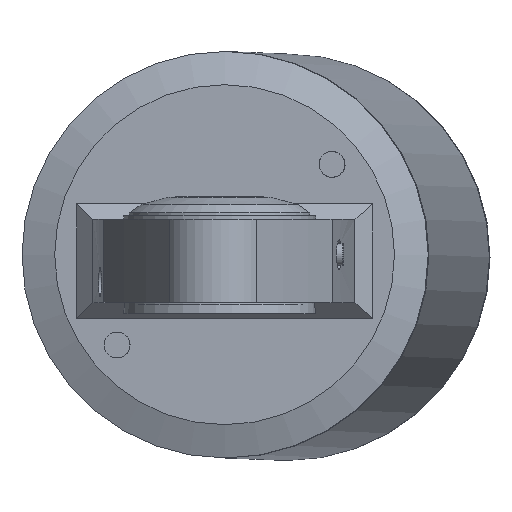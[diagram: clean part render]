
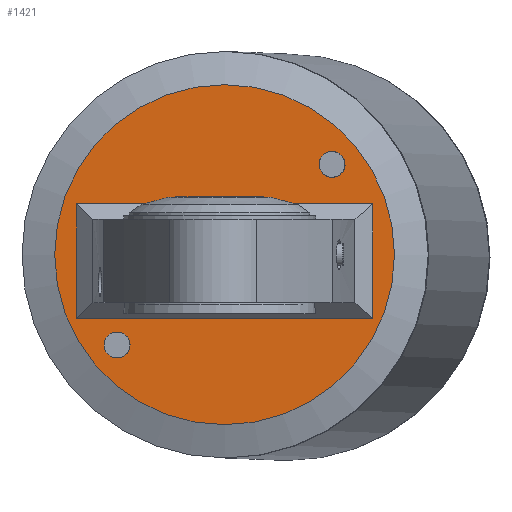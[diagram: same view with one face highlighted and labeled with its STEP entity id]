
A CAD part, top view. The second image highlights one B-rep face of the part: STEP entity #1421.
In plain terms, the highlighted planar face has unit normal (-0.042, 0, 0.999).
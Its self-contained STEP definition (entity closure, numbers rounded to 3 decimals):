
#4 = DIRECTION ( 'NONE',  ( 0., -1., 0. ) ) ;
#15 = AXIS2_PLACEMENT_3D ( 'NONE', #2724, #2955, #2275 ) ;
#27 = DIRECTION ( 'NONE',  ( 0.042, 0., -0.999 ) ) ;
#103 = VERTEX_POINT ( 'NONE', #654 ) ;
#120 = ORIENTED_EDGE ( 'NONE', *, *, #1766, .F. ) ;
#181 = ORIENTED_EDGE ( 'NONE', *, *, #3005, .T. ) ;
#198 = EDGE_CURVE ( 'NONE', #763, #567, #963, .T. ) ;
#258 = FACE_BOUND ( 'NONE', #407, .T. ) ;
#276 = ORIENTED_EDGE ( 'NONE', *, *, #1210, .F. ) ;
#365 = DIRECTION ( 'NONE',  ( -0.042, 0., 0.999 ) ) ;
#386 = EDGE_LOOP ( 'NONE', ( #2539, #181, #441, #2052 ) ) ;
#407 = EDGE_LOOP ( 'NONE', ( #276 ) ) ;
#441 = ORIENTED_EDGE ( 'NONE', *, *, #2465, .T. ) ;
#456 = VERTEX_POINT ( 'NONE', #2843 ) ;
#482 = CARTESIAN_POINT ( 'NONE',  ( 322.705, 339.5, 2160.357 ) ) ;
#515 = AXIS2_PLACEMENT_3D ( 'NONE', #482, #27, #4 ) ;
#567 = VERTEX_POINT ( 'NONE', #1750 ) ;
#654 = CARTESIAN_POINT ( 'NONE',  ( 402.798, 305., 2163.708 ) ) ;
#716 = VECTOR ( 'NONE', #2358, 1000. ) ;
#763 = VERTEX_POINT ( 'NONE', #2674 ) ;
#843 = ORIENTED_EDGE ( 'NONE', *, *, #1017, .F. ) ;
#947 = DIRECTION ( 'NONE',  ( 0.999, 0., 0.042 ) ) ;
#963 = LINE ( 'NONE', #1488, #716 ) ;
#998 = VERTEX_POINT ( 'NONE', #1505 ) ;
#1017 = EDGE_CURVE ( 'NONE', #1945, #1945, #2342, .T. ) ;
#1186 = CIRCLE ( 'NONE', #2398, 7. ) ;
#1203 = CARTESIAN_POINT ( 'NONE',  ( 380.873, 381.352, 2162.79 ) ) ;
#1210 = EDGE_CURVE ( 'NONE', #998, #998, #2839, .T. ) ;
#1289 = DIRECTION ( 'NONE',  ( 0., -1., 0. ) ) ;
#1328 = EDGE_CURVE ( 'NONE', #103, #763, #1429, .T. ) ;
#1346 = VECTOR ( 'NONE', #2113, 1000. ) ;
#1397 = AXIS2_PLACEMENT_3D ( 'NONE', #2928, #1770, #1289 ) ;
#1421 = ADVANCED_FACE ( 'NONE', ( #2371, #258, #1507, #2195 ), #1967, .F. ) ;
#1429 = LINE ( 'NONE', #1858, #1346 ) ;
#1440 = CARTESIAN_POINT ( 'NONE',  ( 322.705, 247.5, 2160.357 ) ) ;
#1488 = CARTESIAN_POINT ( 'NONE',  ( 242.611, 339.5, 2157.006 ) ) ;
#1505 = CARTESIAN_POINT ( 'NONE',  ( 264.536, 283.648, 2157.923 ) ) ;
#1507 = FACE_BOUND ( 'NONE', #386, .T. ) ;
#1724 = LINE ( 'NONE', #2647, #1924 ) ;
#1739 = DIRECTION ( 'NONE',  ( 0., -1., 0. ) ) ;
#1743 = VECTOR ( 'NONE', #947, 1000. ) ;
#1750 = CARTESIAN_POINT ( 'NONE',  ( 242.611, 367., 2157.006 ) ) ;
#1766 = EDGE_CURVE ( 'NONE', #1885, #1885, #1186, .T. ) ;
#1770 = DIRECTION ( 'NONE',  ( 0.042, 0., -0.999 ) ) ;
#1847 = EDGE_LOOP ( 'NONE', ( #120 ) ) ;
#1858 = CARTESIAN_POINT ( 'NONE',  ( 414.624, 305., 2164.202 ) ) ;
#1885 = VERTEX_POINT ( 'NONE', #1203 ) ;
#1918 = EDGE_LOOP ( 'NONE', ( #843 ) ) ;
#1924 = VECTOR ( 'NONE', #1739, 1000. ) ;
#1945 = VERTEX_POINT ( 'NONE', #1440 ) ;
#1967 = PLANE ( 'NONE',  #1397 ) ;
#2052 = ORIENTED_EDGE ( 'NONE', *, *, #1328, .T. ) ;
#2073 = LINE ( 'NONE', #3006, #1743 ) ;
#2113 = DIRECTION ( 'NONE',  ( -0.999, 0., -0.042 ) ) ;
#2195 = FACE_OUTER_BOUND ( 'NONE', #1918, .T. ) ;
#2235 = DIRECTION ( 'NONE',  ( 0., -1., 0. ) ) ;
#2275 = DIRECTION ( 'NONE',  ( 0., -1., 0. ) ) ;
#2342 = CIRCLE ( 'NONE', #515, 92. ) ;
#2358 = DIRECTION ( 'NONE',  ( 0., 1., 0. ) ) ;
#2371 = FACE_BOUND ( 'NONE', #1847, .T. ) ;
#2398 = AXIS2_PLACEMENT_3D ( 'NONE', #2938, #365, #2235 ) ;
#2465 = EDGE_CURVE ( 'NONE', #456, #103, #1724, .T. ) ;
#2539 = ORIENTED_EDGE ( 'NONE', *, *, #198, .T. ) ;
#2647 = CARTESIAN_POINT ( 'NONE',  ( 402.798, 339.5, 2163.708 ) ) ;
#2674 = CARTESIAN_POINT ( 'NONE',  ( 242.611, 305., 2157.006 ) ) ;
#2724 = CARTESIAN_POINT ( 'NONE',  ( 264.536, 290.648, 2157.923 ) ) ;
#2839 = CIRCLE ( 'NONE', #15, 7. ) ;
#2843 = CARTESIAN_POINT ( 'NONE',  ( 402.798, 367., 2163.708 ) ) ;
#2928 = CARTESIAN_POINT ( 'NONE',  ( 414.624, 339.5, 2164.202 ) ) ;
#2938 = CARTESIAN_POINT ( 'NONE',  ( 380.873, 388.352, 2162.79 ) ) ;
#2955 = DIRECTION ( 'NONE',  ( -0.042, 0., 0.999 ) ) ;
#3005 = EDGE_CURVE ( 'NONE', #567, #456, #2073, .T. ) ;
#3006 = CARTESIAN_POINT ( 'NONE',  ( 394.227, 367., 2163.349 ) ) ;
